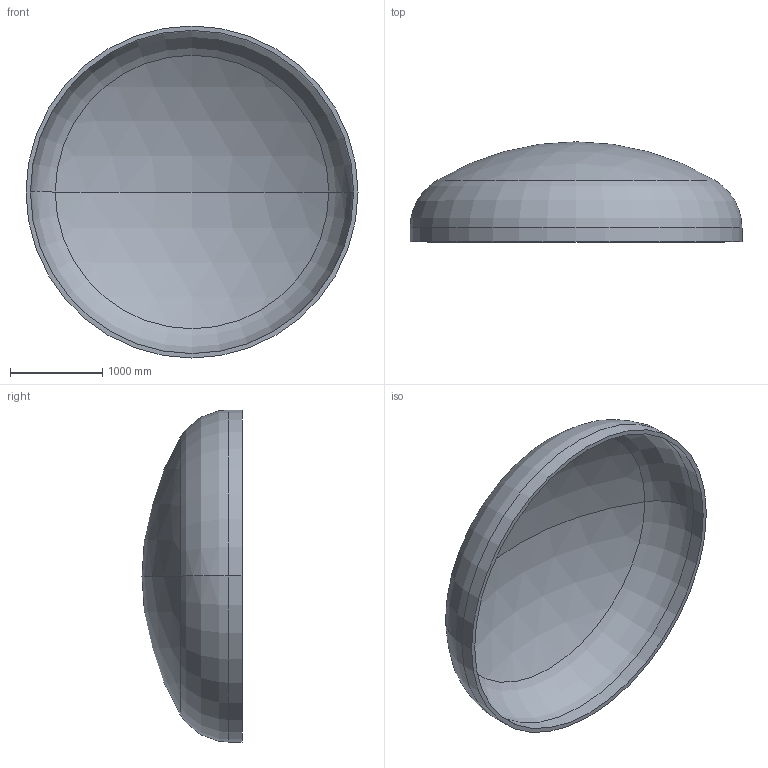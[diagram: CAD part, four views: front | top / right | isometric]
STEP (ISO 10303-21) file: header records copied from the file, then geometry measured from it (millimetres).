
FILE_DESCRIPTION (( 'STEP AP203' ), '1' );
FILE_NAME ('DIN 28013 Korbbogenform_-_Boden DIN 28013 - 3600 x 150 - I - s=48.step', '2016-07-01T20:30:06', ( '' ), ( '' ), 'SwSTEP 2.0', 'SolidWorks 2013', '' );
FILE_SCHEMA (( 'CONFIG_CONTROL_DESIGN' ));
Length unit declared in the file: millimetre
Products named in the file (1): DIN 28013 Korbbogenform_-_Boden DIN 28013 - 3600 x 150 - I - s=48
Bounding box: 3600 x 1084.81 x 3600 mm (x, y, z)
Volume: 745343567.9 mm3; surface area: 31596425.6 mm2
Topology: 1 solids, 1 shells, 13 faces, 24 edges, 14 vertices
Faces by surface type: torus 4, cylinder 4, sphere 4, plane 1
Entity records: 407 total; most frequent: DIRECTION 72, CARTESIAN_POINT 52, ORIENTED_EDGE 48, AXIS2_PLACEMENT_3D 34, EDGE_CURVE 24, CIRCLE 20, VERTEX_POINT 14, EDGE_LOOP 14
